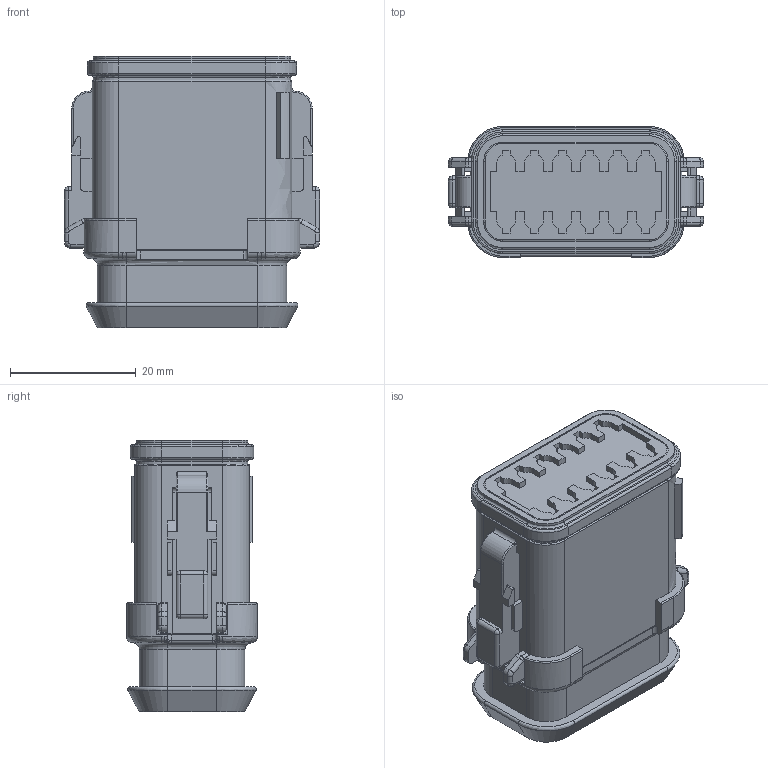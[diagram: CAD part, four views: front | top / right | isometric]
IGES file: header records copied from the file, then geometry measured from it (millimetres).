
Start section:  PTC IGES file: c-dt06-12sb-ce04-99-3d.igs
Global section: file name: c-dt06-12sb-ce04-99-3d.igs; native system: Pro/ENGINEER by Parametric Technology Corporation; preprocessor: 2011490; author: workeradm; organization: Unknown; units: millimetre
Bounding box: 40.56 x 20.83 x 43.21 mm (x, y, z)
Surface area: 8616.9 mm2 (no closed solid volume)
Topology: 0 solids, 0 shells, 785 faces, 3970 edges, 3970 vertices
Faces by surface type: revolution 408, bspline 377
